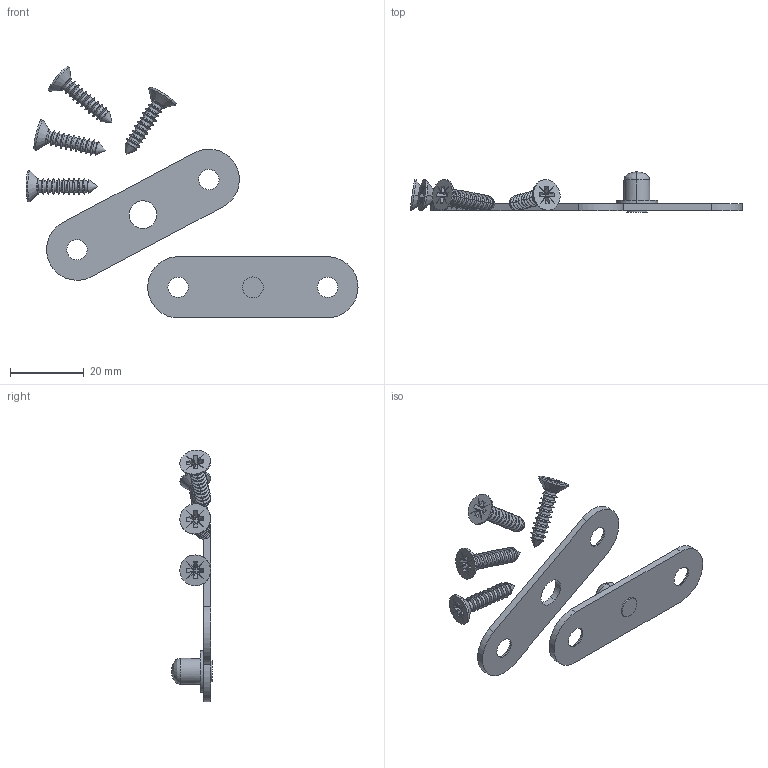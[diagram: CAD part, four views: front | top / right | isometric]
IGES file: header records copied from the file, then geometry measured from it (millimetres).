
Start section: 3D InterOp IGES (v. 2022 1.0.1), Spatial Corp. Copyright (c) 1999-2020.
Global section: file name: F142-A_15.08.190-0 Invisible Pivot Hinge SS201.igs; native system: Spatial Corp.; preprocessor: 3D InterOp GENERIC/IGES 3.0; author: Noname; organization: Noname; date: 20251208.172112; units: millimetre
Bounding box: 89.99 x 11 x 68.26 mm (x, y, z)
Volume: 4199.3 mm3; surface area: 5666.2 mm2
Topology: 6 solids, 6 shells, 441 faces, 996 edges, 566 vertices
Faces by surface type: cone 184, cylinder 124, extrusion 115, bspline 18
